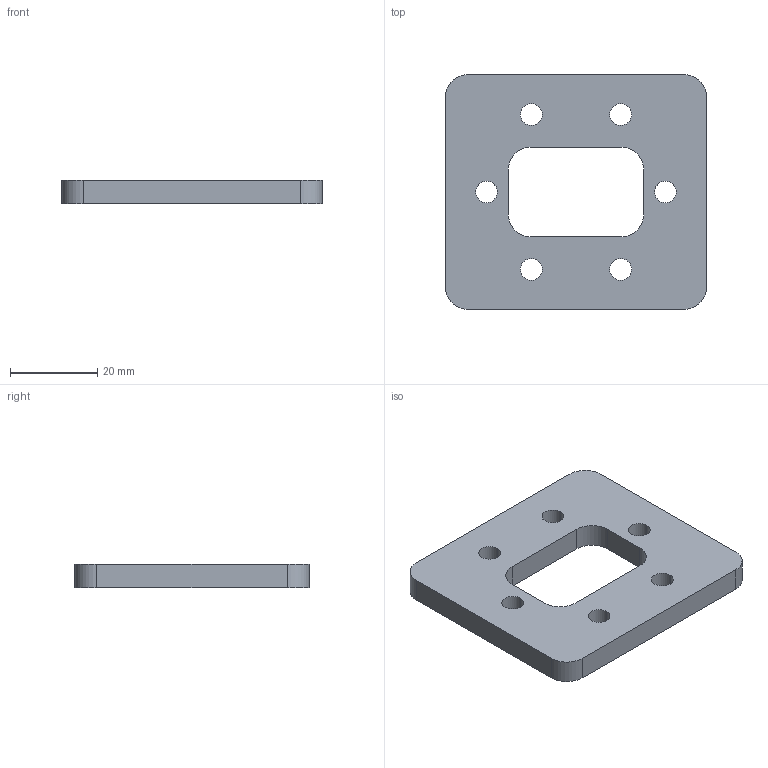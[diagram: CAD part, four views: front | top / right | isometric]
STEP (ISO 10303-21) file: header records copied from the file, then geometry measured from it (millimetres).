
FILE_DESCRIPTION (( 'STEP AP203' ), '1' );
FILE_NAME ('YOKE.step', '2026-06-05T03:32:56', ( '' ), ( '' ), 'SwSTEP 2.0', 'SolidWorks 2024', '' );
FILE_SCHEMA (( 'CONFIG_CONTROL_DESIGN' ));
Length unit declared in the file: millimetre
Products named in the file (1): YOKE
Bounding box: 59.8 x 53.8 x 5.5 mm (x, y, z)
Volume: 13550.4 mm3; surface area: 7167.5 mm2
Topology: 1 solids, 1 shells, 30 faces, 84 edges, 56 vertices
Faces by surface type: cylinder 20, plane 10
Entity records: 1093 total; most frequent: DIRECTION 186, CARTESIAN_POINT 171, ORIENTED_EDGE 168, EDGE_CURVE 84, AXIS2_PLACEMENT_3D 71, VERTEX_POINT 56, EDGE_LOOP 44, VECTOR 44
